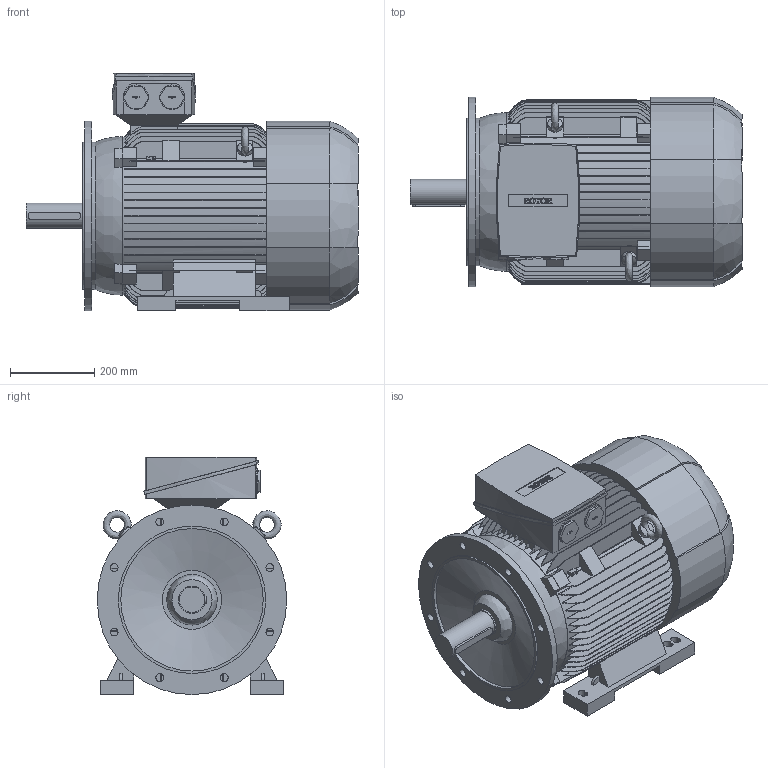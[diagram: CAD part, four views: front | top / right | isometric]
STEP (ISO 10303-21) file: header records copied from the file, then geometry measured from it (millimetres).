
FILE_DESCRIPTION (( 'STEP AP214' ), '1' );
FILE_NAME ('6RN225S04E10 IM2001.STEP', '2016-02-16T07:08:49', ( 'rotor' ), ( 'Hewlett-Packard Company' ), 'SwSTEP 2.0', 'SolidWorks 2012', '' );
FILE_SCHEMA (( 'AUTOMOTIVE_DESIGN' ));
Length unit declared in the file: millimetre
Products named in the file (1): 6RN225S04E10 IM2001
Bounding box: 788 x 450 x 563 mm (x, y, z)
Volume: 89566814.9 mm3; surface area: 2881933.9 mm2
Topology: 1 solids, 1 shells, 870 faces, 2546 edges, 1691 vertices
Faces by surface type: plane 507, bspline 204, cylinder 154, cone 5
Full cylindrical faces by diameter (mm): 5 x1, 16 x2, 18.5 x8, 35 x2, 58 x2, 60 x1, 65 x1, 338 x1, 350 x2, 450 x1
Entity records: 46655 total; most frequent: CARTESIAN_POINT 16857, ORIENTED_EDGE 5018, DIRECTION 3662, EDGE_CURVE 2509, VERTEX_POINT 1680, LINE 1492, VECTOR 1492, AXIS2_PLACEMENT_3D 1085
